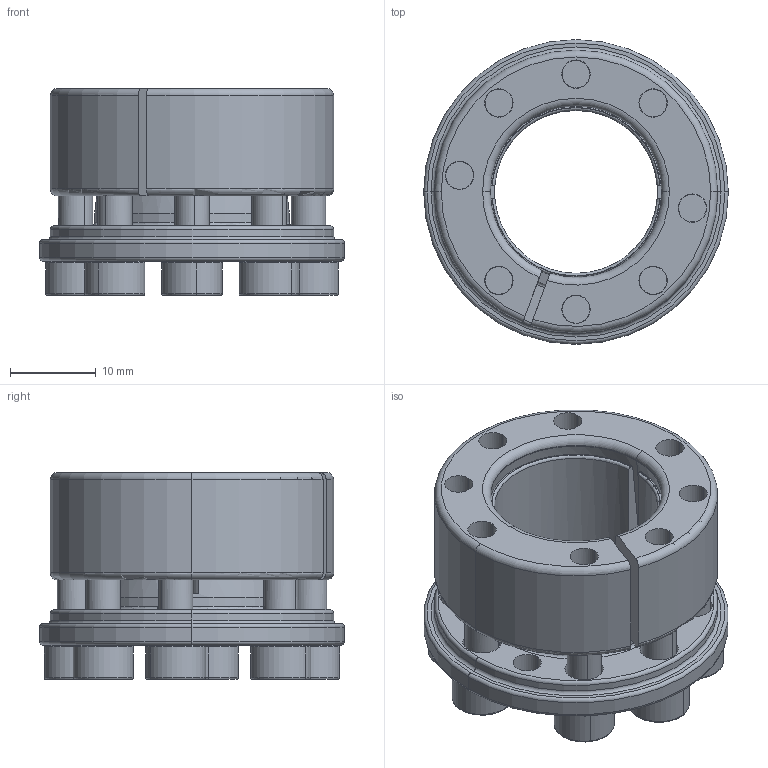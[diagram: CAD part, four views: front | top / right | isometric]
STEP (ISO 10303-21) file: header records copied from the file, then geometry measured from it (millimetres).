
FILE_DESCRIPTION (( 'STEP AP203' ), '1' );
FILE_NAME ('SAPL-A-19-33.STEP', '2013-07-12T01:57:58', ( 'MYCOM' ), ( '' ), 'SwSTEP 2.0', 'SolidWorks 2012', '' );
FILE_SCHEMA (( 'CONFIG_CONTROL_DESIGN' ));
Length unit declared in the file: millimetre
Products named in the file (1): SAPL-A-19-33
Bounding box: 35.5 x 35.5 x 24.1 mm (x, y, z)
Volume: 10937.3 mm3; surface area: 8007.1 mm2
Topology: 1 solids, 1 shells, 379 faces, 948 edges, 568 vertices
Faces by surface type: plane 143, cylinder 95, torus 79, cone 62
Entity records: 11582 total; most frequent: CARTESIAN_POINT 2263, DIRECTION 2113, ORIENTED_EDGE 1864, EDGE_CURVE 932, AXIS2_PLACEMENT_3D 878, VERTEX_POINT 568, CIRCLE 498, EDGE_LOOP 418
